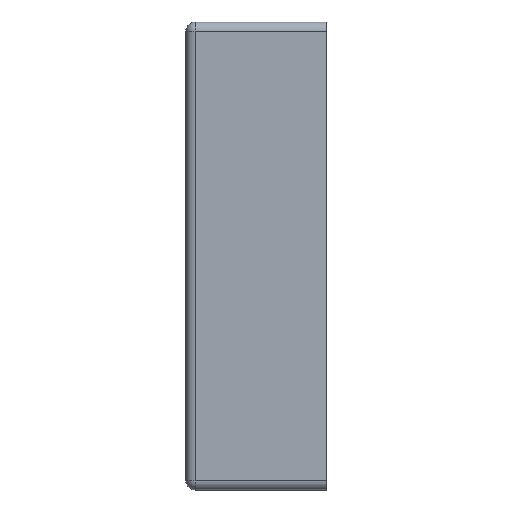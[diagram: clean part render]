
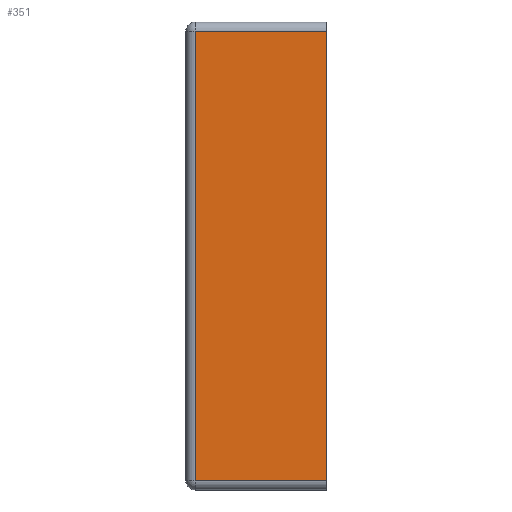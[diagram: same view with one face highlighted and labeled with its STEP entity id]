
A CAD part, left-side view. The second image highlights one B-rep face of the part: STEP entity #351.
In plain terms, the highlighted planar face has unit normal (-1, 0, 0).
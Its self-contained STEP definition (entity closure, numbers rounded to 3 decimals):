
#13 = DIRECTION ( 'NONE',  ( 0., 0., -1. ) ) ;
#152 = EDGE_CURVE ( 'NONE', #2812, #3681, #691, .T. ) ;
#235 = VECTOR ( 'NONE', #1223, 1000. ) ;
#270 = CARTESIAN_POINT ( 'NONE',  ( -100., 60., 96. ) ) ;
#351 = ADVANCED_FACE ( 'NONE', ( #2160 ), #1692, .F. ) ;
#615 = LINE ( 'NONE', #2038, #235 ) ;
#691 = LINE ( 'NONE', #2736, #862 ) ;
#764 = ORIENTED_EDGE ( 'NONE', *, *, #152, .T. ) ;
#862 = VECTOR ( 'NONE', #1220, 1000. ) ;
#1014 = DIRECTION ( 'NONE',  ( 0., 1., 0. ) ) ;
#1216 = ORIENTED_EDGE ( 'NONE', *, *, #1652, .T. ) ;
#1220 = DIRECTION ( 'NONE',  ( 0., -1., 0. ) ) ;
#1223 = DIRECTION ( 'NONE',  ( 0., 0., 1. ) ) ;
#1503 = VECTOR ( 'NONE', #13, 1000. ) ;
#1652 = EDGE_CURVE ( 'NONE', #2516, #2812, #2707, .T. ) ;
#1692 = PLANE ( 'NONE',  #3420 ) ;
#1722 = CARTESIAN_POINT ( 'NONE',  ( -100., 4., -96. ) ) ;
#1891 = CARTESIAN_POINT ( 'NONE',  ( -100., 4., 96. ) ) ;
#1949 = EDGE_CURVE ( 'NONE', #1976, #2516, #2309, .T. ) ;
#1974 = DIRECTION ( 'NONE',  ( 0., 0., -1. ) ) ;
#1976 = VERTEX_POINT ( 'NONE', #1891 ) ;
#2038 = CARTESIAN_POINT ( 'NONE',  ( -100., 4., 100. ) ) ;
#2099 = ORIENTED_EDGE ( 'NONE', *, *, #2579, .T. ) ;
#2160 = FACE_OUTER_BOUND ( 'NONE', #3128, .T. ) ;
#2309 = LINE ( 'NONE', #3636, #2352 ) ;
#2352 = VECTOR ( 'NONE', #1014, 1000. ) ;
#2356 = CARTESIAN_POINT ( 'NONE',  ( -100., 60., -96. ) ) ;
#2516 = VERTEX_POINT ( 'NONE', #270 ) ;
#2538 = ORIENTED_EDGE ( 'NONE', *, *, #1949, .T. ) ;
#2579 = EDGE_CURVE ( 'NONE', #3681, #1976, #615, .T. ) ;
#2707 = LINE ( 'NONE', #2356, #1503 ) ;
#2736 = CARTESIAN_POINT ( 'NONE',  ( -100., 64., -96. ) ) ;
#2781 = CARTESIAN_POINT ( 'NONE',  ( -100., 60., -96. ) ) ;
#2812 = VERTEX_POINT ( 'NONE', #2781 ) ;
#2922 = DIRECTION ( 'NONE',  ( 1., 0., 0. ) ) ;
#3128 = EDGE_LOOP ( 'NONE', ( #2538, #1216, #764, #2099 ) ) ;
#3420 = AXIS2_PLACEMENT_3D ( 'NONE', #3753, #2922, #1974 ) ;
#3636 = CARTESIAN_POINT ( 'NONE',  ( -100., 64., 96. ) ) ;
#3681 = VERTEX_POINT ( 'NONE', #1722 ) ;
#3753 = CARTESIAN_POINT ( 'NONE',  ( -100., 64., 100. ) ) ;
